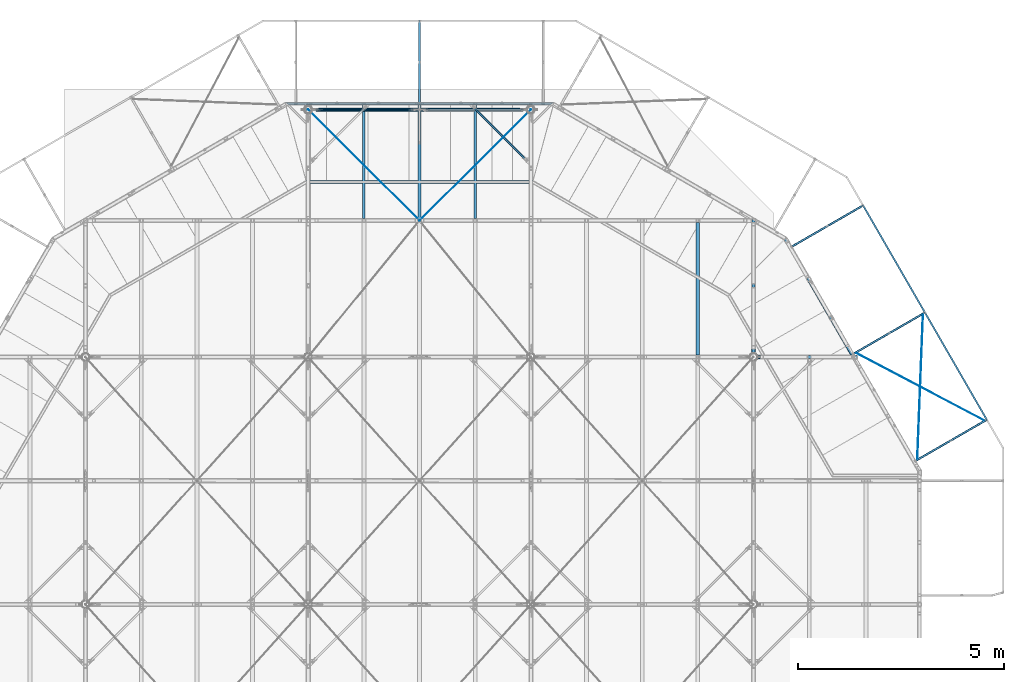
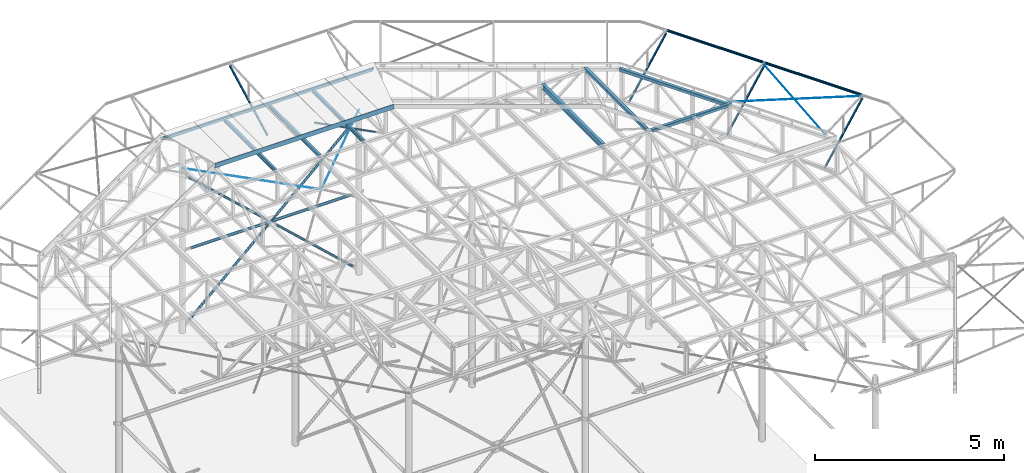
# One storey, part 19 of 132: 17 beams, 10 members, 27 elements without a shape of their own.
"""IFC2X3 building model written with IfcOpenShell, lengths in millimetres."""

import ifcopenshell
import ifcopenshell.guid

model = None  # the IFC model being written
_history = None  # IfcOwnerHistory: only IFC2X3 demands one
_inside = {}  # id of a spatial element -> (the spatial element, [elements in it])
_under = {}  # id of a project, library or spatial element -> (it, [spatial elements below it])
_declared = {}  # id of a project -> (the project, [libraries it declares])
_typed = {}  # id of a type object -> (the type object, [elements of that type])
_made_of = {}  # id of a material, layer set ... -> (it, [elements and type objects made of it])


def new_model(schema):
    """Start an empty IFC model of exactly this schema.

    Asked for "IFC4X3", IfcOpenShell would pick the latest addendum, in which some entities
    have other attributes; the version numbers below select the first issue.
    IFC2X3 requires an IfcOwnerHistory on every rooted entity: one is made here for all.
    """
    global model, _history
    if schema == "IFC4X3":
        model = ifcopenshell.file(schema_version=(4, 3, 0, 0))
    else:
        model = ifcopenshell.file(schema=schema)
    _inside.clear()
    _under.clear()
    _declared.clear()
    _typed.clear()
    _made_of.clear()
    _history = None
    if model.schema == "IFC2X3":
        org = make("IfcOrganization", Name="unknown")
        user = make(
            "IfcPersonAndOrganization",
            ThePerson=make("IfcPerson", FamilyName="unknown"),
            TheOrganization=org,
        )
        app = make(
            "IfcApplication",
            ApplicationDeveloper=org,
            Version="unknown",
            ApplicationFullName="unknown",
            ApplicationIdentifier="unknown",
        )
        _history = make(
            "IfcOwnerHistory",
            OwningUser=user,
            OwningApplication=app,
            ChangeAction="ADDED",
            CreationDate=0,
        )
    return model


def make(cls, **values):
    """One entity of the class cls with the attributes given. An attribute that is None is left unset."""
    return model.create_entity(
        cls, **{name: value for name, value in values.items() if value is not None}
    )


def rooted(cls, **values):
    """An entity with a GlobalId (a new one), such as an element, a storey or a relation."""
    return make(cls, GlobalId=ifcopenshell.guid.new(), OwnerHistory=_history, **values)


def si_unit(unit_type, name, prefix=None):
    """IfcSIUnit, for example si_unit("LENGTHUNIT", "METRE", prefix="MILLI")."""
    return make("IfcSIUnit", UnitType=unit_type, Prefix=prefix, Name=name)


def assignment(units):
    """IfcUnitAssignment: the units of a project."""
    return None if units is None else make("IfcUnitAssignment", Units=units)


def point(xyz):
    """IfcCartesianPoint."""
    return None if xyz is None else make("IfcCartesianPoint", Coordinates=xyz)


def direction(xyz):
    """IfcDirection."""
    return None if xyz is None else make("IfcDirection", DirectionRatios=xyz)


def frame(location, z_axis=None, x_axis=None):
    """IfcAxis2Placement3D, a coordinate frame: its origin and axes. An axis left out is left unset."""
    return make(
        "IfcAxis2Placement3D",
        Location=point(location),
        Axis=direction(z_axis),
        RefDirection=direction(x_axis),
    )


def frame_2d(location, x_axis=None):
    """IfcAxis2Placement2D, a coordinate frame in the plane: its origin and x axis."""
    return make(
        "IfcAxis2Placement2D", Location=point(location), RefDirection=direction(x_axis)
    )


def origin_with_axes():
    """The frame at (0, 0, 0) with the z axis (0, 0, 1) and the x axis (1, 0, 0) written out."""
    return frame((0.0, 0.0, 0.0), z_axis=(0.0, 0.0, 1.0), x_axis=(1.0, 0.0, 0.0))


def origin_2d_with_axis():
    """The frame at (0, 0) in the plane with the x axis (1, 0) written out."""
    return frame_2d((0.0, 0.0), x_axis=(1.0, 0.0))


def place(relative_to, where):
    """IfcLocalPlacement: puts the frame where relative to a parent placement (None: the world)."""
    return make(
        "IfcLocalPlacement", PlacementRelTo=relative_to, RelativePlacement=where
    )


def context(
    kind, dimensions, precision=None, world=None, true_north=None, identifier=None
):
    """IfcGeometricRepresentationContext, for example the 3D "Model" context."""
    return make(
        "IfcGeometricRepresentationContext",
        ContextIdentifier=identifier,
        ContextType=kind,
        CoordinateSpaceDimension=dimensions,
        Precision=precision,
        WorldCoordinateSystem=world,
        TrueNorth=true_north,
    )


def subcontext(parent, identifier, kind, view, scale=None):
    """IfcGeometricRepresentationSubContext, for example "Body" below "Model"."""
    return make(
        "IfcGeometricRepresentationSubContext",
        ContextIdentifier=identifier,
        ContextType=kind,
        ParentContext=parent,
        TargetScale=scale,
        TargetView=view,
    )


def project(units=None, contexts=None):
    """IfcProject with its units and contexts."""
    return rooted(
        "IfcProject",
        Name="project",
        RepresentationContexts=contexts,
        UnitsInContext=assignment(units),
    )


def spatial(cls, under=None, at=None, **own):
    """A site, building, storey or space (cls), placed at a placement, below another one or the project."""
    s = rooted(cls, ObjectPlacement=at, **own)
    if under is not None:
        _under.setdefault(under.id(), (under, []))[1].append(s)
    return s


def profile(cls, at=None, kind="AREA", **sizes):
    """A parametric profile (cls). Its sizes go by their IFC names, for example OverallWidth=200.0."""
    return make(cls, ProfileType=kind, Position=at, **sizes)


def rectangle(**sizes):
    """IfcRectangleProfileDef."""
    return profile("IfcRectangleProfileDef", **sizes)


def hollow_rectangle(**sizes):
    """IfcRectangleHollowProfileDef."""
    return profile("IfcRectangleHollowProfileDef", **sizes)


def circle(**sizes):
    """IfcCircleProfileDef."""
    return profile("IfcCircleProfileDef", **sizes)


def hollow_circle(**sizes):
    """IfcCircleHollowProfileDef."""
    return profile("IfcCircleHollowProfileDef", **sizes)


def i_section(**sizes):
    """IfcIShapeProfileDef."""
    return profile("IfcIShapeProfileDef", **sizes)


def l_section(**sizes):
    """IfcLShapeProfileDef."""
    return profile("IfcLShapeProfileDef", **sizes)


def u_section(**sizes):
    """IfcUShapeProfileDef."""
    return profile("IfcUShapeProfileDef", **sizes)


def extrude(swept, where, along, depth):
    """IfcExtrudedAreaSolid: the profile swept, set in the frame where, extruded along a direction by depth."""
    return make(
        "IfcExtrudedAreaSolid",
        SweptArea=swept,
        Position=where,
        ExtrudedDirection=direction(along),
        Depth=depth,
    )


def boolean(op, a, b):
    """IfcBooleanResult of two solids."""
    return make("IfcBooleanResult", Operator=op, FirstOperand=a, SecondOperand=b)


def clip(a, b, op="DIFFERENCE"):
    """IfcBooleanClippingResult: the solid a cut by the half space b."""
    return make(
        "IfcBooleanClippingResult", Operator=op, FirstOperand=a, SecondOperand=b
    )


def halfspace(plane, agree):
    """IfcHalfSpaceSolid: all space on one side of the plane z = 0 of the frame plane."""
    return make(
        "IfcHalfSpaceSolid",
        BaseSurface=make("IfcPlane", Position=plane),
        AgreementFlag=agree,
    )


def shape(context_of_items, identifier, shape_type, items):
    """IfcShapeRepresentation: the items that make up one representation, for example the "Body"."""
    return make(
        "IfcShapeRepresentation",
        ContextOfItems=context_of_items,
        RepresentationIdentifier=identifier,
        RepresentationType=shape_type,
        Items=items,
    )


def material(Name=None, Category=None):
    """IfcMaterial."""
    return make("IfcMaterial", Name=Name, Category=Category)


def made_of(thing, what):
    """Note that an element or type object is made of a material, layer set ...; save() writes the relation."""
    if what is not None:
        _made_of.setdefault(what.id(), (what, []))[1].append(thing)
    return thing


def type_object(cls, material=None, **own):
    """A type object (cls), such as IfcWallType, which elements share."""
    return made_of(rooted(cls, **own), material)


def element(
    cls,
    number,
    at=None,
    inside=None,
    cuts=None,
    type_object=None,
    material=None,
    context=None,
    identifier="Body",
    shape_type=None,
    held_by="IfcProductDefinitionShape",
    body=None,
    shapes=None,
    **own,
):
    """One element of the class cls, such as IfcWall. Its Tag is "e" and its number.

    at: its placement. inside: the storey or other place that contains it. cuts: it is an
    opening in that element (IfcRelVoidsElement). A single representation is given by context,
    identifier, shape_type and body (its items); several are given by shapes. held_by: the class
    of the entity that holds the representations. save() writes the other relations.
    """
    e = rooted(cls, Tag="e%d" % number, ObjectPlacement=at, **own)
    if body is not None:
        shapes = [shape(context, identifier, shape_type, body)]
    if shapes is not None:
        e.Representation = make(held_by, Representations=shapes)
    if inside is not None:
        _inside.setdefault(inside.id(), (inside, []))[1].append(e)
    if cuts is not None:
        rooted(
            "IfcRelVoidsElement", RelatingBuildingElement=cuts, RelatedOpeningElement=e
        )
    if type_object is not None:
        _typed.setdefault(type_object.id(), (type_object, []))[1].append(e)
    return made_of(e, material)


def aggregate(whole, parts):
    """IfcRelAggregates: a whole, such as a stair, and the parts it consists of."""
    return rooted("IfcRelAggregates", RelatingObject=whole, RelatedObjects=parts)


def save(model, path):
    """Write the relations noted so far, then the file.

    IfcRelAggregates (storeys below a building ...), IfcRelContainedInSpatialStructure (elements
    in a storey), IfcRelDefinesByType, IfcRelAssociatesMaterial and IfcRelDeclares: one each for
    every whole, place, type object, material and project.
    """
    for whole, parts in _under.values():
        aggregate(whole, parts)
    for where, things in _inside.values():
        rooted(
            "IfcRelContainedInSpatialStructure",
            RelatedElements=things,
            RelatingStructure=where,
        )
    for kind, things in _typed.values():
        rooted("IfcRelDefinesByType", RelatedObjects=things, RelatingType=kind)
    for what, things in _made_of.values():
        rooted("IfcRelAssociatesMaterial", RelatedObjects=things, RelatingMaterial=what)
    for by, libraries in _declared.values():
        rooted("IfcRelDeclares", RelatingContext=by, RelatedDefinitions=libraries)
    model.write(path)


model = new_model("IFC2X3")

# Units and contexts
model_context = context("Model", 3, precision=1e-05, world=origin_with_axes())
body_context = subcontext(model_context, "Body", "Model", "MODEL_VIEW")
ifc_project = project(units=[si_unit("LENGTHUNIT", "METRE", prefix="MILLI"), si_unit("AREAUNIT", "SQUARE_METRE"), si_unit("VOLUMEUNIT", "CUBIC_METRE"), si_unit("MASSUNIT", "GRAM", prefix="KILO"), si_unit("TIMEUNIT", "SECOND"), si_unit("PLANEANGLEUNIT", "RADIAN"), si_unit("SOLIDANGLEUNIT", "STERADIAN"), si_unit("THERMODYNAMICTEMPERATUREUNIT", "DEGREE_CELSIUS"), si_unit("LUMINOUSINTENSITYUNIT", "LUMEN")], contexts=[model_context])

# Site, building, storey
site_placement = place(None, origin_with_axes())
site = spatial("IfcSite", under=ifc_project, at=site_placement, Name="Budowa", CompositionType="ELEMENT")
building_placement = place(site_placement, origin_with_axes())
building = spatial("IfcBuilding", under=site, at=building_placement, Name="Undefined", CompositionType="ELEMENT")
storey_placement = place(building_placement, origin_with_axes())
storey = spatial("IfcBuildingStorey", under=building, at=storey_placement, Name="Undefined", CompositionType="ELEMENT", Elevation=0.0)

# Assembly, member
assembly_1_placement = place(storey_placement, origin_with_axes())
assembly_1 = element("IfcElementAssembly", 1, at=assembly_1_placement, inside=storey, Name="Steel Assembly", AssemblyPlace="NOTDEFINED", PredefinedType="RIGID_FRAME")
ifc_material_1 = material(Name="STEEL/S235JR")
member_type_1 = type_object("IfcMemberType", Name="CHS76.1*3", PredefinedType="NOTDEFINED")
member_1_placement = place(assembly_1_placement, frame((12125.000921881, 23990.0000000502, 10115.9999960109), z_axis=(0.0, -1.0, 0.0), x_axis=(-0.734552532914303, 0.0, -0.67855182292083)))
member_1 = element("IfcMember", 2, at=member_1_placement, type_object=member_type_1, material=ifc_material_1, Name="BEAM", ObjectType="CHS76.1*3", context=body_context, shape_type="CSG", body=[
    boolean("DIFFERENCE", boolean("DIFFERENCE", boolean("DIFFERENCE", boolean("DIFFERENCE", extrude(hollow_circle(Radius=38.05, WallThickness=3.0, at=origin_2d_with_axis()), frame((3399.19882110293, 0.0, 0.0), z_axis=(-1.0, 0.0, 0.0), x_axis=(0.0, -1.0, 0.0)), (0.0, 0.0, 1.0), 3169.77), extrude(rectangle(XDim=10.0, YDim=80.1, at=origin_2d_with_axis()), frame((310.424006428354, -6.75809408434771e-12, 2.93223274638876e-06), z_axis=(-1.0, 0.0, 0.0), x_axis=(0.0, 0.0, -1.0)), (0.0, 0.0, 1.0), 83.0)), extrude(rectangle(XDim=10.0, YDim=78.1, at=origin_2d_with_axis()), frame((3318.19882110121, -3.83376469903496e-07, 2.42306487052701e-06), z_axis=(1.0, 0.0, 0.0), x_axis=(0.0, 0.0, -1.0)), (0.0, 0.0, 1.0), 93.0)), halfspace(frame((3399.19882110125, -3.83374754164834e-07, -11.9999975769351), z_axis=(-1.0, 0.0, 0.0), x_axis=(0.0, 1.0, 0.0)), True)), halfspace(frame((229.424006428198, -7.27595761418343e-12, -11.9999970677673), z_axis=(1.0, 0.0, 0.0), x_axis=(0.0, -1.0, 0.0)), True)),
])
aggregate(assembly_1, [member_1])

assembly_2_placement = place(storey_placement, origin_with_axes())
assembly_2 = element("IfcElementAssembly", 3, at=assembly_2_placement, inside=storey, Name="Steel Assembly", AssemblyPlace="NOTDEFINED", PredefinedType="RIGID_FRAME")
member_2_placement = place(assembly_2_placement, frame((12125.0013347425, 23990.0000000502, 10116.0003779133), z_axis=(0.0, -1.0, 0.0), x_axis=(0.734552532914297, 0.0, -0.678551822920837)))
member_2 = element("IfcMember", 4, at=member_2_placement, type_object=member_type_1, material=ifc_material_1, Name="BEAM", ObjectType="CHS76.1*3", context=body_context, shape_type="CSG", body=[
    boolean("DIFFERENCE", boolean("DIFFERENCE", boolean("DIFFERENCE", boolean("DIFFERENCE", extrude(hollow_circle(Radius=38.05, WallThickness=3.0, at=origin_2d_with_axis()), frame((3399.19575233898, -1.88693269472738e-13, 0.0), z_axis=(-1.0, 0.0, 0.0), x_axis=(0.0, -1.0, 0.0)), (0.0, 0.0, 1.0), 3169.77), extrude(rectangle(XDim=10.0, YDim=80.1, at=origin_2d_with_axis()), frame((310.424563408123, 8.74467165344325e-13, 2.93223274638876e-06), z_axis=(-1.0, 0.0, 0.0), x_axis=(0.0, 0.0, -1.0)), (0.0, 0.0, 1.0), 83.0)), extrude(rectangle(XDim=10.0, YDim=78.1, at=origin_2d_with_axis()), frame((3318.19575233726, 0.0, 2.70282180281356e-06), z_axis=(1.0, 0.0, 0.0), x_axis=(0.0, 0.0, -1.0)), (0.0, 0.0, 1.0), 93.0)), halfspace(frame((3399.1957523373, -5.45696821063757e-12, -11.9999972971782), z_axis=(-1.0, 0.0, 0.0), x_axis=(0.0, 1.0, 0.0)), True)), halfspace(frame((229.424563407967, 5.45696821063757e-12, -11.9999970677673), z_axis=(1.0, 0.0, 0.0), x_axis=(0.0, -1.0, 0.0)), True)),
])
aggregate(assembly_2, [member_2])

assembly_3_placement = place(storey_placement, origin_with_axes())
assembly_3 = element("IfcElementAssembly", 5, at=assembly_3_placement, inside=storey, Name="Steel Assembly", AssemblyPlace="NOTDEFINED", PredefinedType="RIGID_FRAME")
member_3_placement = place(assembly_3_placement, frame((14684.1014860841, 23990.0000000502, 12480.0002212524), z_axis=(0.0, -1.0, 0.0), x_axis=(-0.734552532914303, 0.0, -0.67855182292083)))
member_3 = element("IfcMember", 6, at=member_3_placement, type_object=member_type_1, material=ifc_material_1, Name="BEAM", ObjectType="CHS76.1*3", context=body_context, shape_type="CSG", body=[
    boolean("DIFFERENCE", boolean("DIFFERENCE", boolean("DIFFERENCE", boolean("DIFFERENCE", extrude(hollow_circle(Radius=38.05, WallThickness=3.0, at=origin_2d_with_axis()), frame((3254.46533546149, 0.0, 0.0), z_axis=(-1.0, 0.0, 0.0), x_axis=(0.0, -1.0, 0.0)), (0.0, 0.0, 1.0), 3169.77), extrude(rectangle(XDim=10.0, YDim=80.1, at=origin_2d_with_axis()), frame((3173.46533545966, 5.74262859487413e-12, 3.21735569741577e-06), z_axis=(1.0, 0.0, 0.0), x_axis=(0.0, 0.0, -1.0)), (0.0, 0.0, 1.0), 83.0)), extrude(rectangle(XDim=10.0, YDim=78.1, at=origin_2d_with_axis()), frame((165.694149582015, 0.0, 2.42306850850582e-06), z_axis=(-1.0, 0.0, 0.0), x_axis=(0.0, 0.0, -1.0)), (0.0, 0.0, 1.0), 93.0)), halfspace(frame((3254.46533545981, 3.63797880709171e-12, -11.9999967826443), z_axis=(-1.0, 0.0, 0.0), x_axis=(0.0, 1.0, 0.0)), True)), halfspace(frame((84.6941495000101, -0.00128033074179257, -11.9999975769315), z_axis=(1.0, 0.0, 0.0), x_axis=(0.0, -1.0, 0.0)), True)),
])
aggregate(assembly_3, [member_3])

assembly_4_placement = place(storey_placement, origin_with_axes())
assembly_4 = element("IfcElementAssembly", 7, at=assembly_4_placement, inside=storey, Name="Steel Assembly", AssemblyPlace="NOTDEFINED", PredefinedType="RIGID_FRAME")
member_4_placement = place(assembly_4_placement, frame((9565.90118396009, 23990.0000000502, 12480.0002212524), z_axis=(0.0, -1.0, 0.0), x_axis=(0.734552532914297, 0.0, -0.678551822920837)))
member_4 = element("IfcMember", 8, at=member_4_placement, type_object=member_type_1, material=ifc_material_1, Name="BEAM", ObjectType="CHS76.1*3", context=body_context, shape_type="CSG", body=[
    boolean("DIFFERENCE", boolean("DIFFERENCE", boolean("DIFFERENCE", boolean("DIFFERENCE", extrude(hollow_circle(Radius=38.05, WallThickness=3.0, at=origin_2d_with_axis()), frame((3254.46533546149, 0.0, 0.0), z_axis=(-1.0, 0.0, 0.0), x_axis=(0.0, -1.0, 0.0)), (0.0, 0.0, 1.0), 3169.77), extrude(rectangle(XDim=10.0, YDim=80.1, at=origin_2d_with_axis()), frame((3173.46533545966, 5.74262859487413e-12, 3.21735569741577e-06), z_axis=(1.0, 0.0, 0.0), x_axis=(0.0, 0.0, -1.0)), (0.0, 0.0, 1.0), 83.0)), extrude(rectangle(XDim=10.0, YDim=78.1, at=origin_2d_with_axis()), frame((165.690516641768, -1.58151269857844e-12, 2.52268364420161e-06), z_axis=(-1.0, 0.0, 0.0), x_axis=(0.0, 0.0, -1.0)), (0.0, 0.0, 1.0), 93.0)), halfspace(frame((3254.46533545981, 3.63797880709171e-12, -11.9999967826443), z_axis=(-1.0, 0.0, 0.0), x_axis=(0.0, 1.0, 0.0)), True)), halfspace(frame((84.6905166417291, 1.81898940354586e-12, -11.9999974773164), z_axis=(1.0, 0.0, 0.0), x_axis=(0.0, -1.0, 0.0)), True)),
])
aggregate(assembly_4, [member_4])

# Assembly, beam
assembly_5_placement = place(storey_placement, origin_with_axes())
assembly_5 = element("IfcElementAssembly", 9, at=assembly_5_placement, inside=storey, Name="Steel Assembly", AssemblyPlace="NOTDEFINED", PredefinedType="RIGID_FRAME")
beam_type_1 = type_object("IfcBeamType", Name="CHS88.9*3", PredefinedType="NOTDEFINED")
beam_1_placement = place(assembly_5_placement, frame((9513.90113818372, 23998.0000028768, 10116.0003779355), z_axis=(0.0, -1.0, 0.0), x_axis=(1.0, 0.0, 0.0)))
beam_1 = element("IfcBeam", 10, at=beam_1_placement, type_object=beam_type_1, material=ifc_material_1, Name="BEAM", ObjectType="CHS88.9*3", context=body_context, shape_type="CSG", body=[
    boolean("DIFFERENCE", boolean("DIFFERENCE", boolean("DIFFERENCE", boolean("DIFFERENCE", boolean("DIFFERENCE", extrude(hollow_circle(Radius=44.45, WallThickness=3.0, at=origin_2d_with_axis()), frame((5057.96216744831, 0.0, 0.0), z_axis=(-1.0, 0.0, 0.0), x_axis=(0.0, -1.0, 0.0)), (0.0, 0.0, 1.0), 4893.73), extrude(rectangle(XDim=9.0, YDim=92.9, at=origin_2d_with_axis()), frame((265.235555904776, 1.81898940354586e-12, 3.42543353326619e-06), z_axis=(-1.0, 0.0, 0.0), x_axis=(0.0, 0.0, 1.0)), (0.0, 0.0, 1.0), 103.0)), extrude(rectangle(XDim=9.0, YDim=92.9, at=origin_2d_with_axis()), frame((4956.96216744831, 1.81898940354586e-12, 3.42543353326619e-06), z_axis=(1.0, 0.0, 0.0), x_axis=(0.0, 0.0, -1.0)), (0.0, 0.0, 1.0), 103.0)), extrude(rectangle(XDim=8.0, YDim=80.1, at=origin_2d_with_axis()), frame((5006.96216666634, 0.0, 2.93223274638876e-06), z_axis=(1.0, 0.0, 0.0), x_axis=(0.0, 0.0, 1.0)), (0.0, 0.0, 1.0), 82.0)), halfspace(frame((5057.96216744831, 1.81898940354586e-12, -11.9999965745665), z_axis=(-1.0, 0.0, 0.0), x_axis=(0.0, 1.0, 0.0)), True)), halfspace(frame((164.235555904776, 1.81898940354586e-12, -11.9999965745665), z_axis=(1.0, 0.0, 0.0), x_axis=(0.0, 0.0, 1.0)), True)),
])
aggregate(assembly_5, [beam_1])

# Assembly, member
assembly_6_placement = place(storey_placement, origin_with_axes())
assembly_6 = element("IfcElementAssembly", 11, at=assembly_6_placement, inside=storey, Name="Steel Assembly", AssemblyPlace="NOTDEFINED", PredefinedType="RIGID_FRAME")
ifc_material_2 = material(Name="STEEL/S235")
member_type_2 = type_object("IfcMemberType", Name="CHS60.3*6.3", PredefinedType="NOTDEFINED")
member_5_placement = place(assembly_6_placement, frame((14684.1014860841, 23992.0000000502, 12480.0002212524), z_axis=(0.0, -1.0, 0.0), x_axis=(-0.734552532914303, 0.0, -0.67855182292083)))
member_5 = element("IfcMember", 12, at=member_5_placement, type_object=member_type_2, material=ifc_material_2, Name="BEAM", ObjectType="CHS60.3*6.3", context=body_context, shape_type="CSG", body=[
    boolean("DIFFERENCE", boolean("DIFFERENCE", boolean("DIFFERENCE", boolean("DIFFERENCE", extrude(hollow_circle(Radius=30.15, WallThickness=6.3, at=origin_2d_with_axis()), frame((6893.08928483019, 3.82643321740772e-13, -3.63797880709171e-12), z_axis=(-1.0, 0.0, 0.0), x_axis=(0.0, -1.0, 0.0)), (0.0, 0.0, 1.0), 6818.4), extrude(rectangle(XDim=8.0, YDim=64.3, at=origin_2d_with_axis()), frame((124.694149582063, -2.13606909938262e-13, 2.42306487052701e-06), z_axis=(-1.0, 0.0, 0.0), x_axis=(0.0, 0.0, -1.0)), (0.0, 0.0, 1.0), 52.0)), extrude(rectangle(XDim=8.0, YDim=64.3, at=origin_2d_with_axis()), frame((6843.08928482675, 2.23465690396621e-12, 2.42306487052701e-06), z_axis=(1.0, 0.0, 0.0), x_axis=(0.0, 0.0, -1.0)), (0.0, 0.0, 1.0), 52.0)), halfspace(frame((6893.08928482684, 4.54747350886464e-12, -11.9999975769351), z_axis=(-1.0, 0.0, 0.0), x_axis=(0.0, 1.0, 0.0)), True)), halfspace(frame((74.6941495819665, -3.63797880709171e-12, -11.9999975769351), z_axis=(1.0, 0.0, 0.0), x_axis=(0.0, -1.0, 0.0)), True)),
])
aggregate(assembly_6, [member_5])

assembly_7_placement = place(storey_placement, origin_with_axes())
assembly_7 = element("IfcElementAssembly", 13, at=assembly_7_placement, inside=storey, Name="Steel Assembly", AssemblyPlace="NOTDEFINED", PredefinedType="RIGID_FRAME")
member_6_placement = place(assembly_7_placement, frame((9565.90118396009, 23992.0000000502, 12480.0002212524), z_axis=(0.0, -1.0, 0.0), x_axis=(0.734552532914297, 0.0, -0.678551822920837)))
member_6 = element("IfcMember", 14, at=member_6_placement, type_object=member_type_2, material=ifc_material_2, Name="BEAM", ObjectType="CHS60.3*6.3", context=body_context, shape_type="CSG", body=[
    boolean("DIFFERENCE", boolean("DIFFERENCE", boolean("DIFFERENCE", boolean("DIFFERENCE", extrude(hollow_circle(Radius=30.15, WallThickness=6.3, at=origin_2d_with_axis()), frame((3341.67300460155, 1.85500115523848e-13, 3.63797880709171e-12), z_axis=(-1.0, 0.0, 0.0), x_axis=(0.0, -1.0, 0.0)), (0.0, 0.0, 1.0), 3266.98), extrude(rectangle(XDim=8.0, YDim=64.3, at=origin_2d_with_axis()), frame((124.690516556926, 3.26183524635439e-13, 2.52269092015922e-06), z_axis=(-1.0, 0.0, 0.0), x_axis=(0.0, 0.0, -1.0)), (0.0, 0.0, 1.0), 52.0)), extrude(rectangle(XDim=8.0, YDim=64.3, at=origin_2d_with_axis()), frame((3291.67300459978, 1.0103029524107e-12, 2.52269092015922e-06), z_axis=(1.0, 0.0, 0.0), x_axis=(0.0, 0.0, -1.0)), (0.0, 0.0, 1.0), 52.0)), halfspace(frame((3341.67300459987, 0.0, -11.9999974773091), z_axis=(-1.0, 0.0, 0.0), x_axis=(0.0, 1.0, 0.0)), True)), halfspace(frame((74.6905165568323, 3.63797880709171e-12, -11.9999974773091), z_axis=(1.0, 0.0, 0.0), x_axis=(0.0, -1.0, 0.0)), True)),
])
aggregate(assembly_7, [member_6])

# Assembly, beam
assembly_8_placement = place(storey_placement, origin_with_axes())
assembly_8 = element("IfcElementAssembly", 15, at=assembly_8_placement, inside=storey, Name="Steel Assembly", AssemblyPlace="NOTDEFINED", PredefinedType="RIGID_FRAME")
beam_type_2 = type_object("IfcBeamType", Name="IPE180", PredefinedType="NOTDEFINED")
beam_2_placement = place(assembly_8_placement, frame((18874.9999999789, 18050.000000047, 13790.0), z_axis=(0.0, 0.0, 1.0), x_axis=(0.0, 1.0, 0.0)))
beam_2 = element("IfcBeam", 16, at=beam_2_placement, type_object=beam_type_2, material=ifc_material_2, Name="BEAM", ObjectType="IPE180", context=body_context, shape_type="SweptSolid", body=[
    extrude(i_section(OverallWidth=91.0, OverallDepth=180.0, WebThickness=5.300000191, FlangeThickness=8.0, FilletRadius=9.0, at=origin_2d_with_axis()), frame((3209.99999999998, 0.0, 0.0), z_axis=(-1.0, 0.0, 0.0), x_axis=(0.0, -1.0, 0.0)), (0.0, 0.0, 1.0), 3210.0),
])
aggregate(assembly_8, [beam_2])

assembly_9_placement = place(storey_placement, origin_with_axes())
assembly_9 = element("IfcElementAssembly", 17, at=assembly_9_placement, inside=storey, Name="Steel Assembly", AssemblyPlace="NOTDEFINED", PredefinedType="RIGID_FRAME")
beam_type_3 = type_object("IfcBeamType", Name="L150*75*9", PredefinedType="NOTDEFINED")
beam_3_placement = place(assembly_9_placement, frame((14860.4935607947, 22246.5012210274, 13955.0), z_axis=(0.0, 0.0, 1.0), x_axis=(-1.0, 0.0, 0.0)))
beam_3 = element("IfcBeam", 18, at=beam_3_placement, type_object=beam_type_3, material=ifc_material_2, Name="BEAM", ObjectType="L150*75*9", context=body_context, shape_type="Clipping", body=[
    clip(clip(extrude(l_section(Depth=150.0, Width=75.0, Thickness=9.0, FilletRadius=10.5, EdgeRadius=5.5, at=origin_2d_with_axis()), frame((5501.33162173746, 0.0, 0.0), z_axis=(-1.0, 0.0, 0.0), x_axis=(0.0, -1.0, 0.0)), (0.0, 0.0, 1.0), 5531.68), halfspace(frame((5470.98636773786, 37.5, 0.0), z_axis=(-0.965925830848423, -0.258819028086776, 0.0), x_axis=(0.0, 0.0, 1.0)), True)), halfspace(frame((-20.0961854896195, -37.4999999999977, 0.0), z_axis=(0.965925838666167, -0.258818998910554, 0.0), x_axis=(0.0, 0.0, 1.0)), True)),
])
aggregate(assembly_9, [beam_3])

assembly_10_placement = place(storey_placement, origin_with_axes())
assembly_10 = element("IfcElementAssembly", 19, at=assembly_10_placement, inside=storey, Name="Steel Assembly", AssemblyPlace="NOTDEFINED", PredefinedType="RIGID_FRAME")
beam_type_4 = type_object("IfcBeamType", Name="D10", PredefinedType="NOTDEFINED")
beam_4_placement = place(assembly_10_placement, frame((25810.2200978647, 16467.5676692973, 13945.5281319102), z_axis=(-0.0432481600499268, -0.0249672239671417, 0.998752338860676), x_axis=(-0.884584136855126, 0.465617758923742, -0.0266647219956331)))
beam_4 = element("IfcBeam", 20, at=beam_4_placement, type_object=beam_type_4, material=ifc_material_2, Name="BEAM", ObjectType="D10", context=body_context, shape_type="SweptSolid", body=[
    extrude(circle(Radius=5.0, at=origin_2d_with_axis()), frame((3489.02120950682, 1.67199953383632e-13, 1.2104974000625e-14), z_axis=(-1.0, 0.0, 0.0), x_axis=(0.0, -1.0, 0.0)), (0.0, 0.0, 1.0), 3489.02),
])
aggregate(assembly_10, [beam_4])

assembly_11_placement = place(storey_placement, origin_with_axes())
assembly_11 = element("IfcElementAssembly", 21, at=assembly_11_placement, inside=storey, Name="Steel Assembly", AssemblyPlace="NOTDEFINED", PredefinedType="RIGID_FRAME")
beam_5_placement = place(assembly_11_placement, frame((24335.3137193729, 19022.3966606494, 13945.5281319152), z_axis=(-0.0432481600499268, -0.0249672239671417, 0.998752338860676), x_axis=(-0.039128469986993, -0.998878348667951, -0.0266647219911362)))
beam_5 = element("IfcBeam", 22, at=beam_5_placement, type_object=beam_type_4, material=ifc_material_2, Name="BEAM", ObjectType="D10", context=body_context, shape_type="SweptSolid", body=[
    extrude(circle(Radius=5.0, at=origin_2d_with_axis()), frame((3489.02120950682, 1.67199953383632e-13, 1.2104974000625e-14), z_axis=(-1.0, 0.0, 0.0), x_axis=(0.0, -1.0, 0.0)), (0.0, 0.0, 1.0), 3489.02),
])
aggregate(assembly_11, [beam_5])

assembly_12_placement = place(storey_placement, origin_with_axes())
assembly_12 = element("IfcElementAssembly", 23, at=assembly_12_placement, inside=storey, Name="Steel Assembly", AssemblyPlace="NOTDEFINED", PredefinedType="RIGID_FRAME")
beam_type_5 = type_object("IfcBeamType", Name="IPE120", PredefinedType="NOTDEFINED")
beam_6_placement = place(assembly_12_placement, frame((10774.999999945, 21360.0000000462, 13820.0), z_axis=(0.0, 0.0, 1.0), x_axis=(0.0, 1.0, 0.0)))
beam_6 = element("IfcBeam", 24, at=beam_6_placement, type_object=beam_type_5, material=ifc_material_2, Name="BEAM", ObjectType="IPE120", context=body_context, shape_type="SweptSolid", body=[
    extrude(i_section(OverallWidth=64.0, OverallDepth=120.0, WebThickness=4.400000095, FlangeThickness=6.300000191, FilletRadius=7.0, at=origin_2d_with_axis()), frame((2754.89999999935, 0.0, 0.0), z_axis=(-1.0, 0.0, 0.0), x_axis=(0.0, -1.0, 0.0)), (0.0, 0.0, 1.0), 2754.9),
])
aggregate(assembly_12, [beam_6])

assembly_13_placement = place(storey_placement, origin_with_axes())
assembly_13 = element("IfcElementAssembly", 25, at=assembly_13_placement, inside=storey, Name="Steel Assembly", AssemblyPlace="NOTDEFINED", PredefinedType="RIGID_FRAME")
beam_7_placement = place(assembly_13_placement, frame((13474.999999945, 21360.0000000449, 13820.0), z_axis=(0.0, 0.0, 1.0), x_axis=(0.0, 1.0, 0.0)))
beam_7 = element("IfcBeam", 26, at=beam_7_placement, type_object=beam_type_5, material=ifc_material_2, Name="BEAM", ObjectType="IPE120", context=body_context, shape_type="SweptSolid", body=[
    extrude(i_section(OverallWidth=64.0, OverallDepth=120.0, WebThickness=4.400000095, FlangeThickness=6.300000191, FilletRadius=7.0, at=origin_2d_with_axis()), frame((2754.89999999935, 0.0, 0.0), z_axis=(-1.0, 0.0, 0.0), x_axis=(0.0, -1.0, 0.0)), (0.0, 0.0, 1.0), 2754.9),
])
aggregate(assembly_13, [beam_7])

assembly_14_placement = place(storey_placement, origin_with_axes())
assembly_14 = element("IfcElementAssembly", 27, at=assembly_14_placement, inside=storey, Name="Steel Assembly", AssemblyPlace="NOTDEFINED", PredefinedType="RIGID_FRAME")
beam_8_placement = place(assembly_14_placement, frame((12124.999999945, 21360.0000000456, 13820.0), z_axis=(0.0, 0.0, 1.0), x_axis=(0.0, 1.0, 0.0)))
beam_8 = element("IfcBeam", 28, at=beam_8_placement, type_object=beam_type_5, material=ifc_material_2, Name="BEAM", ObjectType="IPE120", context=body_context, shape_type="SweptSolid", body=[
    extrude(i_section(OverallWidth=64.0, OverallDepth=120.0, WebThickness=4.400000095, FlangeThickness=6.300000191, FilletRadius=7.0, at=origin_2d_with_axis()), frame((2754.89999999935, 0.0, 0.0), z_axis=(-1.0, 0.0, 0.0), x_axis=(0.0, -1.0, 0.0)), (0.0, 0.0, 1.0), 2754.9),
])
aggregate(assembly_14, [beam_8])

assembly_15_placement = place(storey_placement, origin_with_axes())
assembly_15 = element("IfcElementAssembly", 29, at=assembly_15_placement, inside=storey, Name="Steel Assembly", AssemblyPlace="NOTDEFINED", PredefinedType="RIGID_FRAME")
beam_type_6 = type_object("IfcBeamType", Name="C70*40*4", PredefinedType="NOTDEFINED")
beam_9_placement = place(assembly_15_placement, frame((24370.4299812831, 19100.4026323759, 13945.005019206), z_axis=(0.0, 0.0, -1.0), x_axis=(-0.499986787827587, 0.866033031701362, 0.0)))
beam_9 = element("IfcBeam", 30, at=beam_9_placement, type_object=beam_type_6, material=ifc_material_2, Name="BEAM", ObjectType="C70*40*4", context=body_context, shape_type="SweptSolid", body=[
    extrude(u_section(Depth=70.0, FlangeWidth=40.0, WebThickness=4.0, FlangeThickness=4.0, FilletRadius=6.0, at=origin_2d_with_axis()), frame((2949.99999995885, 1.63757896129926e-13, 0.0), z_axis=(-1.0, 0.0, 0.0), x_axis=(0.0, -1.0, 0.0)), (0.0, 0.0, 1.0), 2950.0),
])
aggregate(assembly_15, [beam_9])

assembly_16_placement = place(storey_placement, origin_with_axes())
assembly_16 = element("IfcElementAssembly", 31, at=assembly_16_placement, inside=storey, Name="Steel Assembly", AssemblyPlace="NOTDEFINED", PredefinedType="RIGID_FRAME")
beam_10_placement = place(assembly_16_placement, frame((25870.3346385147, 16502.271877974, 13945.005019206), z_axis=(0.0, 0.0, -1.0), x_axis=(-0.499968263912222, 0.86604372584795, 0.0)))
beam_10 = element("IfcBeam", 32, at=beam_10_placement, type_object=beam_type_6, material=ifc_material_2, Name="BEAM", ObjectType="C70*40*4", context=body_context, shape_type="SweptSolid", body=[
    extrude(u_section(Depth=70.0, FlangeWidth=40.0, WebThickness=4.0, FlangeThickness=4.0, FilletRadius=6.0, at=origin_2d_with_axis()), frame((2949.99999995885, 1.63757896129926e-13, 0.0), z_axis=(-1.0, 0.0, 0.0), x_axis=(0.0, -1.0, 0.0)), (0.0, 0.0, 1.0), 2950.0),
])
aggregate(assembly_16, [beam_10])

# Assembly, member
assembly_17_placement = place(storey_placement, origin_with_axes())
assembly_17 = element("IfcElementAssembly", 33, at=assembly_17_placement, inside=storey, Name="Steel Assembly", AssemblyPlace="NOTDEFINED", PredefinedType="RIGID_FRAME")
member_type_3 = type_object("IfcMemberType", Name="SHS50*4", PredefinedType="NOTDEFINED")
member_7_placement = place(assembly_17_placement, frame((24157.91849754, 15484.8203612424, 12802.1351883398), z_axis=(-0.499969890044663, 0.866042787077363, 0.0), x_axis=(0.766800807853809, 0.442677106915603, 0.464815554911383)))
member_7 = element("IfcMember", 34, at=member_7_placement, type_object=member_type_3, material=ifc_material_2, Name="BEAM", ObjectType="SHS50*4", context=body_context, shape_type="Clipping", body=[
    clip(clip(extrude(hollow_rectangle(XDim=50.0, YDim=50.0, WallThickness=4.0, InnerFilletRadius=4.0, OuterFilletRadius=8.0, at=origin_2d_with_axis()), frame((2325.27637080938, 1.2907876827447e-13, 5.21059351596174e-14), z_axis=(-1.0, 0.0, 0.0), x_axis=(0.0, -1.0, 0.0)), (0.0, 0.0, 1.0), 2325.28), halfspace(frame((26.2486785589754, -24.9999999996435, -25.0000000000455), z_axis=(-0.885407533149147, -0.464815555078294, 0.0), x_axis=(-0.464815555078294, 0.885407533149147, 0.0)), False)), halfspace(frame((2258.9602037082, 25.0000000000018, -1.41881173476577e-10), z_axis=(-0.855808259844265, 0.517293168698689, 0.0), x_axis=(0.0, 0.0, 1.0)), True)),
])
aggregate(assembly_17, [member_7])

assembly_18_placement = place(storey_placement, origin_with_axes())
assembly_18 = element("IfcElementAssembly", 35, at=assembly_18_placement, inside=storey, Name="Steel Assembly", AssemblyPlace="NOTDEFINED", PredefinedType="RIGID_FRAME")
member_8_placement = place(assembly_18_placement, frame((22658.0136234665, 18082.9514912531, 12802.1351883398), z_axis=(-0.499969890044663, 0.866042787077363, 0.0), x_axis=(0.766800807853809, 0.442677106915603, 0.464815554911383)))
member_8 = element("IfcMember", 36, at=member_8_placement, type_object=member_type_3, material=ifc_material_2, Name="BEAM", ObjectType="SHS50*4", context=body_context, shape_type="Clipping", body=[
    clip(clip(extrude(hollow_rectangle(XDim=50.0, YDim=50.0, WallThickness=4.0, InnerFilletRadius=4.0, OuterFilletRadius=8.0, at=origin_2d_with_axis()), frame((2325.27637080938, 1.2907876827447e-13, 5.21059351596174e-14), z_axis=(-1.0, 0.0, 0.0), x_axis=(0.0, -1.0, 0.0)), (0.0, 0.0, 1.0), 2325.28), halfspace(frame((26.2486785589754, -24.9999999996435, -25.0000000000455), z_axis=(-0.885407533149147, -0.464815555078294, 0.0), x_axis=(-0.464815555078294, 0.885407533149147, 0.0)), False)), halfspace(frame((2258.9602037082, 25.0000000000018, -1.41881173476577e-10), z_axis=(-0.855808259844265, 0.517293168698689, 0.0), x_axis=(0.0, 0.0, 1.0)), True)),
])
aggregate(assembly_18, [member_8])

assembly_19_placement = place(storey_placement, origin_with_axes())
assembly_19 = element("IfcElementAssembly", 37, at=assembly_19_placement, inside=storey, Name="Steel Assembly", AssemblyPlace="NOTDEFINED", PredefinedType="RIGID_FRAME")
member_9_placement = place(assembly_19_placement, frame((21158.0533468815, 20681.0506365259, 12802.1351883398), z_axis=(-0.499969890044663, 0.866042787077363, 0.0), x_axis=(0.766800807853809, 0.442677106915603, 0.464815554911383)))
member_9 = element("IfcMember", 38, at=member_9_placement, type_object=member_type_3, material=ifc_material_2, Name="BEAM", ObjectType="SHS50*4", context=body_context, shape_type="Clipping", body=[
    clip(clip(extrude(hollow_rectangle(XDim=50.0, YDim=50.0, WallThickness=4.0, InnerFilletRadius=4.0, OuterFilletRadius=8.0, at=origin_2d_with_axis()), frame((2325.27637080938, 1.2907876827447e-13, 5.21059351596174e-14), z_axis=(-1.0, 0.0, 0.0), x_axis=(0.0, -1.0, 0.0)), (0.0, 0.0, 1.0), 2325.28), halfspace(frame((26.2486785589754, -24.9999999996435, -25.0000000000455), z_axis=(-0.885407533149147, -0.464815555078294, 0.0), x_axis=(-0.464815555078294, 0.885407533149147, 0.0)), False)), halfspace(frame((2258.9602037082, 25.0000000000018, -1.41881173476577e-10), z_axis=(-0.855808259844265, 0.517293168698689, 0.0), x_axis=(0.0, 0.0, 1.0)), True)),
])
aggregate(assembly_19, [member_9])

assembly_20_placement = place(storey_placement, origin_with_axes())
assembly_20 = element("IfcElementAssembly", 39, at=assembly_20_placement, inside=storey, Name="Steel Assembly", AssemblyPlace="NOTDEFINED", PredefinedType="RIGID_FRAME")
member_10_placement = place(assembly_20_placement, frame((12124.9999999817, 24163.2796111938, 12802.1351883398), z_axis=(1.0, 0.0, 0.0), x_axis=(0.0, 0.885407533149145, 0.464815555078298)))
member_10 = element("IfcMember", 40, at=member_10_placement, type_object=member_type_3, material=ifc_material_2, Name="BEAM", ObjectType="SHS50*4", context=body_context, shape_type="Clipping", body=[
    clip(clip(extrude(hollow_rectangle(XDim=50.0, YDim=50.0, WallThickness=4.0, InnerFilletRadius=4.0, OuterFilletRadius=8.0, at=origin_2d_with_axis()), frame((2286.55526217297, 7.105427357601e-15, -1.81898940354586e-12), z_axis=(-1.0, 0.0, 0.0), x_axis=(0.0, -1.0, 0.0)), (0.0, 0.0, 1.0), 2286.56), halfspace(frame((26.2486785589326, 24.9999999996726, -25.0000000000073), z_axis=(-0.885407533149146, 0.464815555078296, 0.0), x_axis=(0.0, 0.0, 1.0)), False)), halfspace(frame((2258.9602037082, -25.0000000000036, -1.40062184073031e-10), z_axis=(-0.855808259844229, -0.517293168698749, 0.0), x_axis=(0.0, 0.0, -1.0)), True)),
])
aggregate(assembly_20, [member_10])

# Assembly, beam
assembly_21_placement = place(storey_placement, origin_with_axes())
assembly_21 = element("IfcElementAssembly", 41, at=assembly_21_placement, inside=storey, Name="Steel Assembly", AssemblyPlace="NOTDEFINED", PredefinedType="RIGID_FRAME")
beam_type_7 = type_object("IfcBeamType", Name="D16", PredefinedType="NOTDEFINED")
beam_11_placement = place(assembly_21_placement, frame((12124.9999993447, 21309.9999994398, 12780.0), z_axis=(0.0, 0.0, 1.0), x_axis=(0.708417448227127, 0.705793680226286, 0.0)))
beam_11 = element("IfcBeam", 42, at=beam_11_placement, type_object=beam_type_7, material=ifc_material_2, Name="BEAM", ObjectType="D16", context=body_context, shape_type="SweptSolid", body=[
    extrude(circle(Radius=8.0, at=origin_2d_with_axis()), frame((3811.31211046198, 0.0, -1.81898940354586e-12), z_axis=(-1.0, 0.0, 0.0), x_axis=(0.0, -1.0, 0.0)), (0.0, 0.0, 1.0), 3811.31),
])
aggregate(assembly_21, [beam_11])

assembly_22_placement = place(storey_placement, origin_with_axes())
assembly_22 = element("IfcElementAssembly", 43, at=assembly_22_placement, inside=storey, Name="Steel Assembly", AssemblyPlace="NOTDEFINED", PredefinedType="RIGID_FRAME")
beam_12_placement = place(assembly_22_placement, frame((9424.99999994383, 24000.0000000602, 12780.0), z_axis=(0.0, 0.0, 1.0), x_axis=(0.708417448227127, -0.705793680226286, 0.0)))
beam_12 = element("IfcBeam", 44, at=beam_12_placement, type_object=beam_type_7, material=ifc_material_2, Name="BEAM", ObjectType="D16", context=body_context, shape_type="SweptSolid", body=[
    extrude(circle(Radius=8.0, at=origin_2d_with_axis()), frame((3811.31211046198, 0.0, -1.81898940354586e-12), z_axis=(-1.0, 0.0, 0.0), x_axis=(0.0, -1.0, 0.0)), (0.0, 0.0, 1.0), 3811.31),
])
aggregate(assembly_22, [beam_12])

assembly_23_placement = place(storey_placement, origin_with_axes())
assembly_23 = element("IfcElementAssembly", 45, at=assembly_23_placement, inside=storey, Name="Steel Assembly", AssemblyPlace="NOTDEFINED", PredefinedType="RIGID_FRAME")
beam_type_8 = type_object("IfcBeamType", Name="SHS50*5", PredefinedType="NOTDEFINED")
beam_13_placement = place(assembly_23_placement, frame((15074.9999999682, 22414.9000000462, 12830.0), z_axis=(0.0, 0.0, 1.0), x_axis=(-0.707106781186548, 0.707106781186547, 0.0)))
beam_13 = element("IfcBeam", 46, at=beam_13_placement, type_object=beam_type_8, material=ifc_material_2, Name="BEAM", ObjectType="SHS50*5", context=body_context, shape_type="Clipping", body=[
    clip(clip(extrude(hollow_rectangle(XDim=50.0, YDim=50.0, WallThickness=5.0, InnerFilletRadius=5.0, OuterFilletRadius=10.0, at=origin_2d_with_axis()), frame((2264.36406349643, -1.81898940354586e-12, 1.81898940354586e-12), z_axis=(-1.0, 0.0, 0.0), x_axis=(0.0, -1.0, 0.0)), (0.0, 0.0, 1.0), 1700.3), halfspace(frame((2264.36406350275, 1.44245859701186e-09, -8.99999999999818), z_axis=(-1.0, 0.0, 0.0), x_axis=(0.0, 1.0, 0.0)), True)), halfspace(frame((564.063061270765, -1.43882061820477e-09, -8.99999999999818), z_axis=(1.0, 0.0, 0.0), x_axis=(0.0, -1.0, 0.0)), True)),
])
aggregate(assembly_23, [beam_13])

assembly_24_placement = place(storey_placement, origin_with_axes())
assembly_24 = element("IfcElementAssembly", 47, at=assembly_24_placement, inside=storey, Name="Steel Assembly", AssemblyPlace="NOTDEFINED", PredefinedType="RIGID_FRAME")
beam_type_9 = type_object("IfcBeamType", Name="SHS100*8", PredefinedType="NOTDEFINED")
beam_14_placement = place(assembly_24_placement, frame((20313.9, 18000.000000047, 13830.0), z_axis=(0.0, -1.0, 0.0), x_axis=(1.0, 0.0, 0.0)))
beam_14 = element("IfcBeam", 48, at=beam_14_placement, type_object=beam_type_9, material=ifc_material_2, Name="BEAM", ObjectType="SHS100*8", context=body_context, shape_type="CSG", body=[
    boolean("DIFFERENCE", boolean("DIFFERENCE", extrude(hollow_rectangle(XDim=100.0, YDim=100.0, WallThickness=8.0, InnerFilletRadius=8.0, OuterFilletRadius=16.0, at=origin_2d_with_axis()), frame((2434.0, 0.0, 0.0), z_axis=(-1.0, 0.0, 0.0), x_axis=(0.0, -1.0, 0.0)), (0.0, 0.0, 1.0), 2522.9), extrude(circle(Radius=89.9, at=origin_2d_with_axis()), frame((-88.9000000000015, 1950.0, -5.45696821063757e-12), z_axis=(0.0, -1.0, 0.0), x_axis=(0.0, 0.0, 1.0)), (0.0, 0.0, 1.0), 2100.0)), halfspace(frame((-88.9000000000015, -6339.0, -5.45696821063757e-12), z_axis=(-1.0, 0.0, 0.0), x_axis=(0.0, 0.0, -1.0)), False)),
])
aggregate(assembly_24, [beam_14])

assembly_25_placement = place(storey_placement, origin_with_axes())
assembly_25 = element("IfcElementAssembly", 49, at=assembly_25_placement, inside=storey, Name="Steel Assembly", AssemblyPlace="NOTDEFINED", PredefinedType="RIGID_FRAME")
beam_15_placement = place(assembly_25_placement, frame((20225.0, 18088.9000000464, 13830.0), z_axis=(-1.0, 0.0, 0.0), x_axis=(0.0, 1.0, 0.0)))
beam_15 = element("IfcBeam", 50, at=beam_15_placement, type_object=beam_type_9, material=ifc_material_2, Name="BEAM", ObjectType="SHS100*8", context=body_context, shape_type="CSG", body=[
    boolean("DIFFERENCE", boolean("DIFFERENCE", extrude(hollow_rectangle(XDim=100.0, YDim=100.0, WallThickness=8.0, InnerFilletRadius=8.0, OuterFilletRadius=16.0, at=origin_2d_with_axis()), frame((3271.09999999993, 0.0, 0.0), z_axis=(-1.0, 0.0, 0.0), x_axis=(0.0, -1.0, 0.0)), (0.0, 0.0, 1.0), 3360.0), extrude(circle(Radius=89.9, at=origin_2d_with_axis()), frame((-88.9000001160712, -1950.0, -7.27595761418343e-12), z_axis=(0.0, 1.0, 0.0), x_axis=(-1.0, 0.0, 0.0)), (0.0, 0.0, 1.0), 2100.0)), halfspace(frame((-88.9000001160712, 6339.0, -7.27595761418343e-12), z_axis=(-1.0, 0.0, 0.0), x_axis=(0.0, 0.0, 1.0)), False)),
])
aggregate(assembly_25, [beam_15])

assembly_26_placement = place(storey_placement, origin_with_axes())
assembly_26 = element("IfcElementAssembly", 51, at=assembly_26_placement, inside=storey, Name="Steel Assembly", AssemblyPlace="NOTDEFINED", PredefinedType="RIGID_FRAME")
beam_type_10 = type_object("IfcBeamType", Name="SHS100*5", PredefinedType="NOTDEFINED")
beam_16_placement = place(assembly_26_placement, frame((20994.4181832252, 20887.7175423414, 13830.0), z_axis=(0.0, 0.0, 1.0), x_axis=(0.5000000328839, -0.866025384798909, 0.0)))
beam_16 = element("IfcBeam", 52, at=beam_16_placement, type_object=beam_type_10, material=ifc_material_2, Name="BEAM", ObjectType="SHS100*5", context=body_context, shape_type="Clipping", body=[
    clip(clip(extrude(hollow_rectangle(XDim=100.0, YDim=100.0, WallThickness=5.0, InnerFilletRadius=5.0, OuterFilletRadius=10.0, at=origin_2d_with_axis()), frame((3363.31663048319, 1.86701578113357e-13, 0.0), z_axis=(-1.0, 0.0, 0.0), x_axis=(0.0, -1.0, 0.0)), (0.0, 0.0, 1.0), 3429.57), halfspace(frame((3247.84656727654, -49.9999999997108, -50.0), z_axis=(0.866025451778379, -0.499999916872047, 0.0), x_axis=(0.0, 0.0, 1.0)), False)), halfspace(frame((26.7967793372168, -49.9999999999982, 0.0), z_axis=(0.965921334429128, 0.258835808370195, 0.0), x_axis=(0.0, 0.0, 1.0)), True)),
])
aggregate(assembly_26, [beam_16])

assembly_27_placement = place(storey_placement, origin_with_axes())
assembly_27 = element("IfcElementAssembly", 53, at=assembly_27_placement, inside=storey, Name="Steel Assembly", AssemblyPlace="NOTDEFINED", PredefinedType="RIGID_FRAME")
beam_type_11 = type_object("IfcBeamType", Name="RHS100*60*6", PredefinedType="NOTDEFINED")
beam_17_placement = place(assembly_27_placement, frame((8861.99999994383, 24144.9000000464, 13830.0), z_axis=(0.0, 0.0, 1.0), x_axis=(1.0, 0.0, 0.0)))
beam_17 = element("IfcBeam", 54, at=beam_17_placement, type_object=beam_type_11, material=ifc_material_2, Name="BEAM", ObjectType="RHS100*60*6", context=body_context, shape_type="Clipping", body=[
    clip(clip(extrude(hollow_rectangle(XDim=60.0, YDim=100.0, WallThickness=6.0, InnerFilletRadius=6.0, OuterFilletRadius=12.0, at=origin_2d_with_axis()), frame((6574.00113225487, 0.0, 0.0), z_axis=(-1.0, 0.0, 0.0), x_axis=(0.0, -1.0, 0.0)), (0.0, 0.0, 1.0), 6622.0), halfspace(frame((6524.99999999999, 30.0000000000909, 0.0), z_axis=(-0.529678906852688, 0.848198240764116, 0.0), x_axis=(0.0, 0.0, 1.0)), True)), halfspace(frame((97.0806515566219, -30.0000000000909, 0.0), z_axis=(0.529678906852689, 0.848198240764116, 0.0), x_axis=(0.0, 0.0, 1.0)), True)),
])
aggregate(assembly_27, [beam_17])

save(model, "model.ifc")
